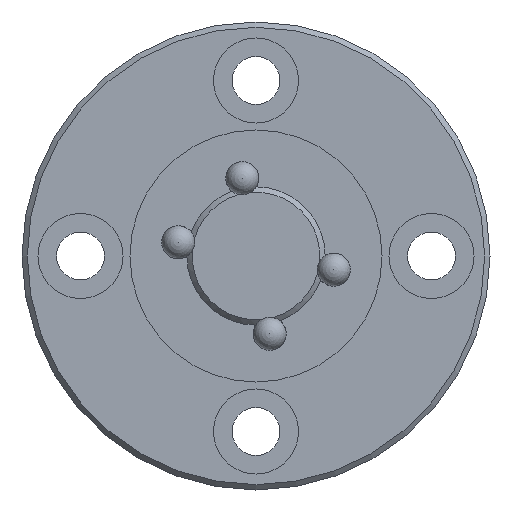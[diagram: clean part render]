
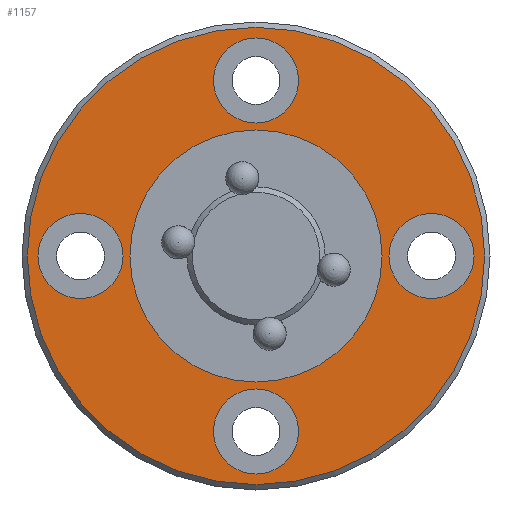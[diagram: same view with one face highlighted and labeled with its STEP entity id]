
A CAD part, left-side view. The second image highlights one B-rep face of the part: STEP entity #1157.
In plain terms, the highlighted planar face has unit normal (-1, 0, 0).
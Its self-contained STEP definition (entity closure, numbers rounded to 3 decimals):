
#53=PLANE('',#1301);
#321=ORIENTED_EDGE('',*,*,#532,.T.);
#322=ORIENTED_EDGE('',*,*,#533,.T.);
#323=ORIENTED_EDGE('',*,*,#534,.T.);
#324=ORIENTED_EDGE('',*,*,#535,.T.);
#325=ORIENTED_EDGE('',*,*,#536,.T.);
#326=ORIENTED_EDGE('',*,*,#530,.T.);
#530=EDGE_CURVE('',#651,#651,#743,.T.);
#532=EDGE_CURVE('',#653,#653,#745,.T.);
#533=EDGE_CURVE('',#654,#654,#746,.T.);
#534=EDGE_CURVE('',#655,#655,#747,.T.);
#535=EDGE_CURVE('',#656,#656,#748,.T.);
#536=EDGE_CURVE('',#657,#657,#749,.T.);
#651=VERTEX_POINT('',#2373);
#653=VERTEX_POINT('',#2378);
#654=VERTEX_POINT('',#2380);
#655=VERTEX_POINT('',#2382);
#656=VERTEX_POINT('',#2384);
#657=VERTEX_POINT('',#2386);
#743=CIRCLE('',#1299,21.5);
#745=CIRCLE('',#1302,11.85);
#746=CIRCLE('',#1303,4.);
#747=CIRCLE('',#1304,4.);
#748=CIRCLE('',#1305,4.);
#749=CIRCLE('',#1306,4.);
#848=EDGE_LOOP('',(#321));
#849=EDGE_LOOP('',(#322));
#850=EDGE_LOOP('',(#323));
#851=EDGE_LOOP('',(#324));
#852=EDGE_LOOP('',(#325));
#853=EDGE_LOOP('',(#326));
#1012=FACE_BOUND('',#848,.T.);
#1013=FACE_BOUND('',#849,.T.);
#1014=FACE_BOUND('',#850,.T.);
#1015=FACE_BOUND('',#851,.T.);
#1016=FACE_BOUND('',#852,.T.);
#1017=FACE_BOUND('',#853,.T.);
#1157=ADVANCED_FACE('',(#1012,#1013,#1014,#1015,#1016,#1017),#53,.F.);
#1299=AXIS2_PLACEMENT_3D('',#2372,#1552,#1553);
#1301=AXIS2_PLACEMENT_3D('',#2376,#1556,#1557);
#1302=AXIS2_PLACEMENT_3D('',#2377,#1558,#1559);
#1303=AXIS2_PLACEMENT_3D('',#2379,#1560,#1561);
#1304=AXIS2_PLACEMENT_3D('',#2381,#1562,#1563);
#1305=AXIS2_PLACEMENT_3D('',#2383,#1564,#1565);
#1306=AXIS2_PLACEMENT_3D('',#2385,#1566,#1567);
#1552=DIRECTION('',(-1.,0.,0.));
#1553=DIRECTION('',(0.,0.,1.));
#1556=DIRECTION('',(1.,0.,0.));
#1557=DIRECTION('',(0.,0.,-1.));
#1558=DIRECTION('',(1.,0.,0.));
#1559=DIRECTION('',(0.,0.,-1.));
#1560=DIRECTION('',(1.,0.,0.));
#1561=DIRECTION('',(0.,0.,1.));
#1562=DIRECTION('',(1.,0.,0.));
#1563=DIRECTION('',(0.,0.,1.));
#1564=DIRECTION('',(1.,0.,0.));
#1565=DIRECTION('',(0.,-1.,0.));
#1566=DIRECTION('',(1.,0.,0.));
#1567=DIRECTION('',(0.,-1.,0.));
#2372=CARTESIAN_POINT('',(-18.,0.,0.));
#2373=CARTESIAN_POINT('',(-18.,0.,21.5));
#2376=CARTESIAN_POINT('',(-18.,21.5,0.));
#2377=CARTESIAN_POINT('',(-18.,0.,0.));
#2378=CARTESIAN_POINT('',(-18.,0.,-11.85));
#2379=CARTESIAN_POINT('',(-18.,0.,16.5));
#2380=CARTESIAN_POINT('',(-18.,0.,20.5));
#2381=CARTESIAN_POINT('',(-18.,0.,-16.5));
#2382=CARTESIAN_POINT('',(-18.,0.,-12.5));
#2383=CARTESIAN_POINT('',(-18.,-16.5,0.));
#2384=CARTESIAN_POINT('',(-18.,-20.5,0.));
#2385=CARTESIAN_POINT('',(-18.,16.5,0.));
#2386=CARTESIAN_POINT('',(-18.,12.5,0.));
